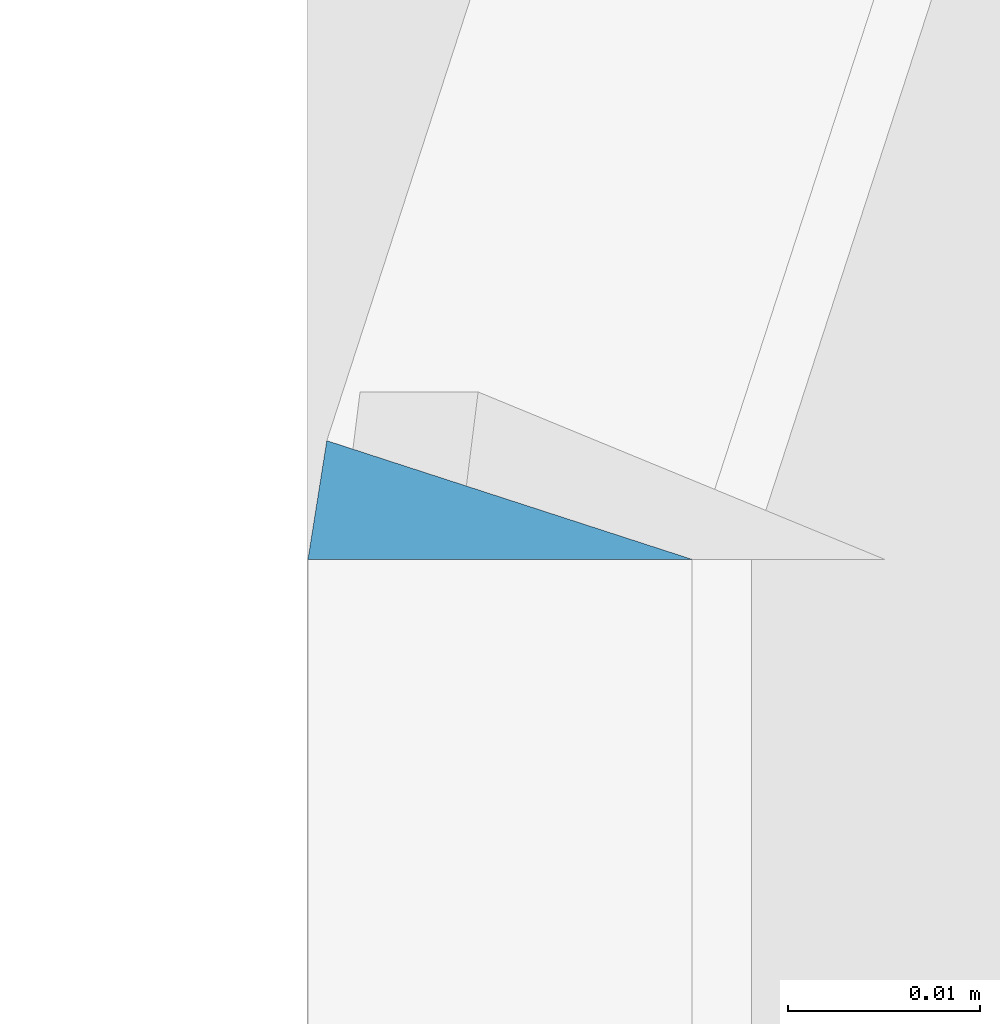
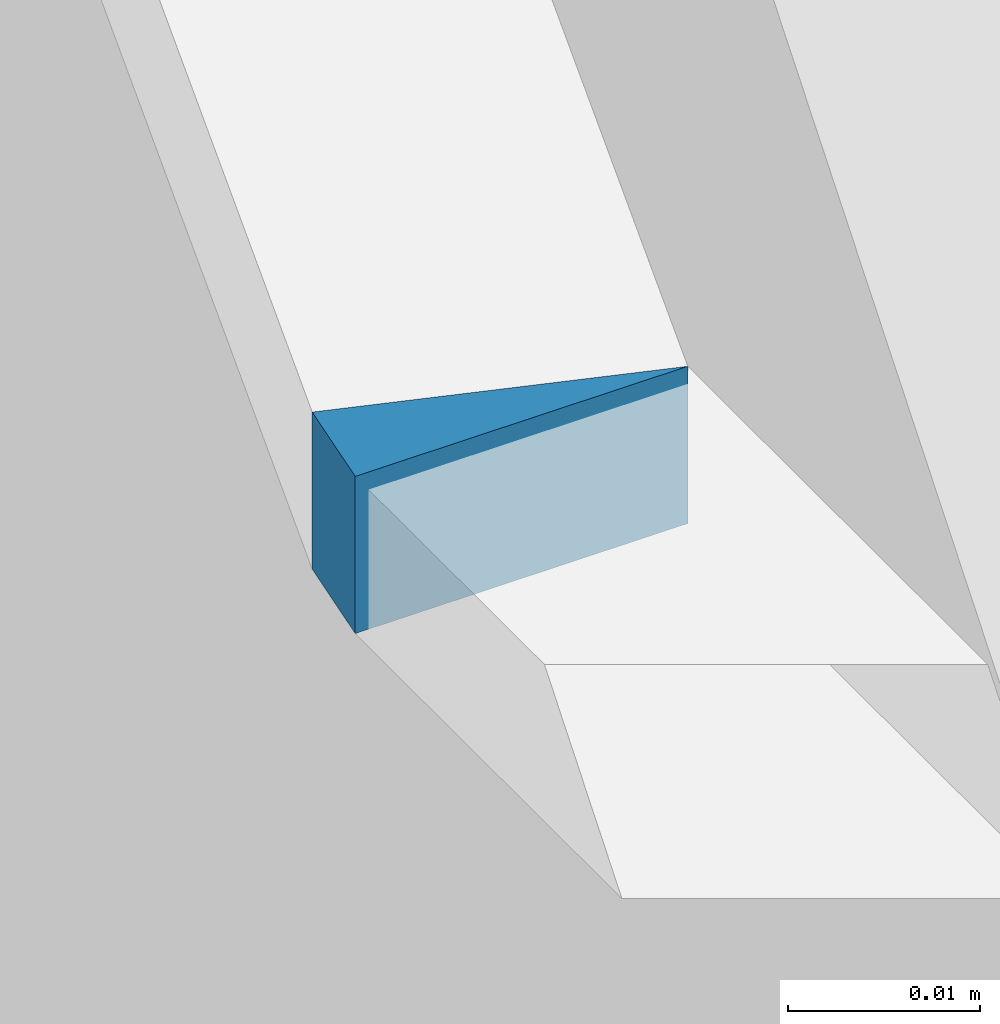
# One storey, part 323 of 583: 1 slab.
"""IFC2X3 building model written with IfcOpenShell, lengths in metres."""

from ifc_helpers import new_model, entity, si_unit, converted_unit, derived_unit, money_unit, direction, frame, origin_with_axes, place, context, subcontext, project, spatial, faceted_brep, material, type_object, element, save


model = new_model("IFC2X3")

# Units and contexts
model_context = context("Model", 3, precision=1e-05, world=origin_with_axes(), true_north=direction((0.0, 1.0)))
body_context = subcontext(model_context, "Body", "Model", "MODEL_VIEW", scale=1.0)
ifc_project = project(units=[si_unit("LENGTHUNIT", "METRE"), si_unit("AREAUNIT", "SQUARE_METRE"), si_unit("VOLUMEUNIT", "CUBIC_METRE"), si_unit("ABSORBEDDOSEUNIT", "GRAY"), si_unit("AMOUNTOFSUBSTANCEUNIT", "MOLE"), si_unit("DOSEEQUIVALENTUNIT", "SIEVERT"), si_unit("ELECTRICCAPACITANCEUNIT", "FARAD"), si_unit("ELECTRICCHARGEUNIT", "COULOMB"), si_unit("ELECTRICCONDUCTANCEUNIT", "SIEMENS"), si_unit("ELECTRICCURRENTUNIT", "AMPERE"), si_unit("ELECTRICRESISTANCEUNIT", "OHM"), si_unit("ELECTRICVOLTAGEUNIT", "VOLT"), si_unit("ENERGYUNIT", "JOULE"), si_unit("FORCEUNIT", "NEWTON"), si_unit("FREQUENCYUNIT", "HERTZ"), si_unit("ILLUMINANCEUNIT", "LUX"), si_unit("INDUCTANCEUNIT", "HENRY"), si_unit("LUMINOUSFLUXUNIT", "LUMEN"), si_unit("LUMINOUSINTENSITYUNIT", "CANDELA"), si_unit("MAGNETICFLUXDENSITYUNIT", "TESLA"), si_unit("MAGNETICFLUXUNIT", "WEBER"), si_unit("MASSUNIT", "GRAM"), converted_unit("PLANEANGLEUNIT", "degree", entity("IfcReal", 0.0174532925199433), si_unit("PLANEANGLEUNIT", "RADIAN"), dimensions=[0, 0, 0, 0, 0, 0, 0]), si_unit("POWERUNIT", "WATT"), si_unit("PRESSUREUNIT", "PASCAL"), si_unit("RADIOACTIVITYUNIT", "BECQUEREL"), si_unit("SOLIDANGLEUNIT", "STERADIAN"), si_unit("THERMODYNAMICTEMPERATUREUNIT", "KELVIN"), si_unit("TIMEUNIT", "SECOND"), derived_unit("ACCELERATIONUNIT", [(si_unit("LENGTHUNIT", "METRE"), 1), (si_unit("TIMEUNIT", "SECOND"), -2)]), derived_unit("ANGULARVELOCITYUNIT", [(converted_unit("PLANEANGLEUNIT", "degree", entity("IfcReal", 0.0174532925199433), si_unit("PLANEANGLEUNIT", "RADIAN"), dimensions=[0, 0, 0, 0, 0, 0, 0]), 1), (si_unit("TIMEUNIT", "SECOND"), -1)]), derived_unit("CURVATUREUNIT", [(converted_unit("PLANEANGLEUNIT", "degree", entity("IfcReal", 0.0174532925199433), si_unit("PLANEANGLEUNIT", "RADIAN"), dimensions=[0, 0, 0, 0, 0, 0, 0]), 1), (si_unit("LENGTHUNIT", "METRE"), -1)]), derived_unit("DYNAMICVISCOSITYUNIT", [(si_unit("PRESSUREUNIT", "PASCAL"), 1), (si_unit("TIMEUNIT", "SECOND"), 1)]), derived_unit("HEATFLUXDENSITYUNIT", [(si_unit("POWERUNIT", "WATT"), 1), (si_unit("LENGTHUNIT", "METRE"), -2)]), derived_unit("HEATINGVALUEUNIT", [(si_unit("ENERGYUNIT", "JOULE"), 1), (si_unit("MASSUNIT", "GRAM"), -1)]), derived_unit("INTEGERCOUNTRATEUNIT", [(si_unit("TIMEUNIT", "SECOND"), -1)]), derived_unit("IONCONCENTRATIONUNIT", [(si_unit("MASSUNIT", "GRAM"), 1), (si_unit("VOLUMEUNIT", "CUBIC_METRE"), -1)]), derived_unit("ISOTHERMALMOISTURECAPACITYUNIT", [(si_unit("VOLUMEUNIT", "CUBIC_METRE"), 1), (si_unit("MASSUNIT", "GRAM"), -1)]), derived_unit("KINEMATICVISCOSITYUNIT", [(si_unit("AREAUNIT", "SQUARE_METRE"), 1), (si_unit("TIMEUNIT", "SECOND"), -1)]), derived_unit("LINEARFORCEUNIT", [(si_unit("FORCEUNIT", "NEWTON"), 1), (si_unit("LENGTHUNIT", "METRE"), -1)]), derived_unit("LINEARMOMENTUNIT", [(si_unit("FORCEUNIT", "NEWTON"), 1), (si_unit("LENGTHUNIT", "METRE"), -1)]), derived_unit("LINEARSTIFFNESSUNIT", [(si_unit("FORCEUNIT", "NEWTON"), 1), (si_unit("LENGTHUNIT", "METRE"), -1)]), derived_unit("LINEARVELOCITYUNIT", [(si_unit("LENGTHUNIT", "METRE"), 1), (si_unit("TIMEUNIT", "SECOND"), -1)]), derived_unit("LUMINOUSINTENSITYDISTRIBUTIONUNIT", [(si_unit("LUMINOUSINTENSITYUNIT", "CANDELA"), 1), (si_unit("LUMINOUSFLUXUNIT", "LUMEN"), -1)]), derived_unit("MASSDENSITYUNIT", [(si_unit("MASSUNIT", "GRAM"), 1), (si_unit("VOLUMEUNIT", "CUBIC_METRE"), -1)]), derived_unit("MASSFLOWRATEUNIT", [(si_unit("MASSUNIT", "GRAM"), 1), (si_unit("TIMEUNIT", "SECOND"), -1)]), derived_unit("MASSPERLENGTHUNIT", [(si_unit("MASSUNIT", "GRAM"), 1), (si_unit("LENGTHUNIT", "METRE"), -1)]), derived_unit("MODULUSOFELASTICITYUNIT", [(si_unit("FORCEUNIT", "NEWTON"), 1), (si_unit("AREAUNIT", "SQUARE_METRE"), -1)]), derived_unit("MODULUSOFLINEARSUBGRADEREACTIONUNIT", [(si_unit("FORCEUNIT", "NEWTON"), 1), (si_unit("LENGTHUNIT", "METRE"), -2)]), derived_unit("MODULUSOFROTATIONALSUBGRADEREACTIONUNIT", [(si_unit("FORCEUNIT", "NEWTON"), 1), (si_unit("LENGTHUNIT", "METRE"), 1)]), derived_unit("MODULUSOFSUBGRADEREACTIONUNIT", [(si_unit("FORCEUNIT", "NEWTON"), 1), (si_unit("VOLUMEUNIT", "CUBIC_METRE"), -1)]), derived_unit("MOISTUREDIFFUSIVITYUNIT", [(si_unit("VOLUMEUNIT", "CUBIC_METRE"), 1), (si_unit("TIMEUNIT", "SECOND"), -1)]), derived_unit("MOLECULARWEIGHTUNIT", [(si_unit("MASSUNIT", "GRAM"), 1), (si_unit("AMOUNTOFSUBSTANCEUNIT", "MOLE"), -1)]), derived_unit("PLANARFORCEUNIT", [(si_unit("FORCEUNIT", "NEWTON"), 1), (si_unit("LENGTHUNIT", "METRE"), -2)]), derived_unit("ROTATIONALFREQUENCYUNIT", [(si_unit("TIMEUNIT", "SECOND"), -1)]), derived_unit("ROTATIONALMASSUNIT", [(si_unit("MASSUNIT", "GRAM"), 1), (si_unit("LENGTHUNIT", "METRE"), 2)]), derived_unit("ROTATIONALSTIFFNESSUNIT", [(si_unit("FORCEUNIT", "NEWTON"), 1), (si_unit("LENGTHUNIT", "METRE"), 1), (converted_unit("PLANEANGLEUNIT", "degree", entity("IfcReal", 0.0174532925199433), si_unit("PLANEANGLEUNIT", "RADIAN"), dimensions=[0, 0, 0, 0, 0, 0, 0]), -1)]), derived_unit("SECTIONAREAINTEGRALUNIT", [(si_unit("LENGTHUNIT", "METRE"), 5)]), derived_unit("SECTIONMODULUSUNIT", [(si_unit("LENGTHUNIT", "METRE"), 3)]), derived_unit("SHEARMODULUSUNIT", [(si_unit("FORCEUNIT", "NEWTON"), 1), (si_unit("AREAUNIT", "SQUARE_METRE"), -1)]), derived_unit("SOUNDPOWERUNIT", [(si_unit("ENERGYUNIT", "JOULE"), 1), (si_unit("TIMEUNIT", "SECOND"), -1)]), derived_unit("SPECIFICHEATCAPACITYUNIT", [(si_unit("FORCEUNIT", "NEWTON"), 1), (si_unit("MASSUNIT", "GRAM"), -1), (si_unit("THERMODYNAMICTEMPERATUREUNIT", "KELVIN"), -1)]), derived_unit("TEMPERATUREGRADIENTUNIT", [(si_unit("THERMODYNAMICTEMPERATUREUNIT", "KELVIN"), 1), (si_unit("LENGTHUNIT", "METRE"), -1)]), derived_unit("THERMALADMITTANCEUNIT", [(si_unit("POWERUNIT", "WATT"), 1), (si_unit("AREAUNIT", "SQUARE_METRE"), -1), (si_unit("THERMODYNAMICTEMPERATUREUNIT", "KELVIN"), -1)]), derived_unit("THERMALCONDUCTANCEUNIT", [(si_unit("POWERUNIT", "WATT"), 1), (si_unit("LENGTHUNIT", "METRE"), -1), (si_unit("THERMODYNAMICTEMPERATUREUNIT", "KELVIN"), -1)]), derived_unit("THERMALEXPANSIONCOEFFICIENTUNIT", [(si_unit("THERMODYNAMICTEMPERATUREUNIT", "KELVIN"), -1)]), derived_unit("THERMALRESISTANCEUNIT", [(si_unit("AREAUNIT", "SQUARE_METRE"), 1), (si_unit("POWERUNIT", "WATT"), -1)]), derived_unit("THERMALTRANSMITTANCEUNIT", [(si_unit("POWERUNIT", "WATT"), 1), (si_unit("AREAUNIT", "SQUARE_METRE"), -1), (si_unit("THERMODYNAMICTEMPERATUREUNIT", "KELVIN"), -1)]), derived_unit("TORQUEUNIT", [(si_unit("FORCEUNIT", "NEWTON"), 1), (si_unit("LENGTHUNIT", "METRE"), 1)]), derived_unit("VAPORPERMEABILITYUNIT", [(si_unit("MASSUNIT", "GRAM"), 1), (si_unit("TIMEUNIT", "SECOND"), -1)]), derived_unit("VOLUMETRICFLOWRATEUNIT", [(si_unit("VOLUMEUNIT", "CUBIC_METRE"), 1), (si_unit("TIMEUNIT", "SECOND"), -1)]), derived_unit("WARPINGCONSTANTUNIT", [(si_unit("LENGTHUNIT", "METRE"), 6)]), derived_unit("WARPINGMOMENTUNIT", [(si_unit("FORCEUNIT", "NEWTON"), 1), (si_unit("LENGTHUNIT", "METRE"), 2)]), money_unit("GBP")], contexts=[model_context])

# Site, building, storey
site_placement = place(None, origin_with_axes())
site = spatial("IfcSite", under=ifc_project, at=site_placement, Name="Site", CompositionType="ELEMENT")
building_placement = place(site_placement, origin_with_axes())
building = spatial("IfcBuilding", under=site, at=building_placement, Name="Building01", CompositionType="ELEMENT")
storey_placement = place(building_placement, frame((0.0, 0.0, 20.78), z_axis=(0.0, 0.0, 1.0), x_axis=(1.0, 0.0, 0.0)))
storey = spatial("IfcBuildingStorey", under=building, at=storey_placement, Name="RL", CompositionType="ELEMENT", Elevation=20.78)

# Slab
ifc_material = material(Name="A_BSUK_Roofs")
slab_type = type_object("IfcSlabType", Name="A-FloorsSlabs A_BSUK_Slabs", PredefinedType="FLOOR")
slab_placement = place(storey_placement, frame((0.500979, 16.280608, -16.044976), z_axis=(0.0, 1.0, 0.0), x_axis=(0.0, 0.0, 1.0)))
element("IfcSlab", 1, at=slab_placement, inside=storey, type_object=slab_type, material=ifc_material, Name="A-FloorsSlabs A_BSUK_Slabs", ObjectType="A-FloorsSlabs A_BSUK_Slabs", context=body_context, shape_type="Brep", body=[
    faceted_brep([(0.0, -0.000979, -0.00618), (0.01, -0.000979, -0.00618), (0.01, 0.0, 0.0), (0.0, 0.0, 0.0), (0.0, 0.019021, -0.00618), (0.01, 0.019021, -0.00618)], [[[0, 1, 2, 3]], [[4, 5, 1, 0]], [[3, 2, 5, 4]], [[1, 5, 2]], [[3, 4, 0]]]),
])

save(model, "model.ifc")
